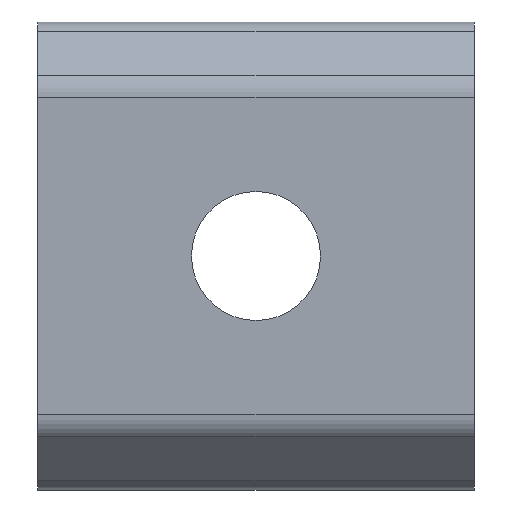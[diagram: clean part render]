
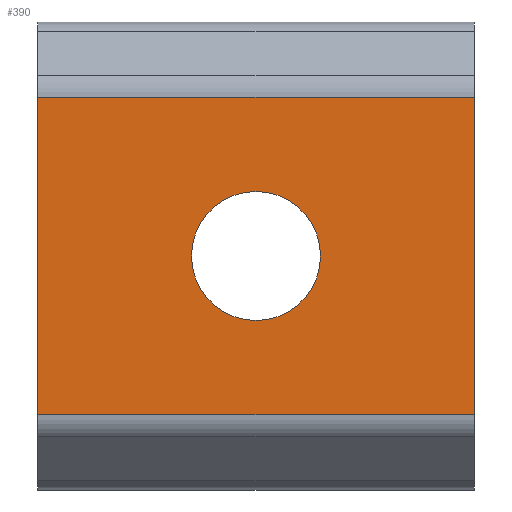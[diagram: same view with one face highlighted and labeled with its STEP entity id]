
A CAD part, front view. The second image highlights one B-rep face of the part: STEP entity #390.
In plain terms, the highlighted planar face has unit normal (0, -1, 0).
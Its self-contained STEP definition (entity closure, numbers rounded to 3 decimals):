
#7 = CARTESIAN_POINT ( 'NONE',  ( 0., -6.3, 2.067 ) ) ;
#17 = CIRCLE ( 'NONE', #464, 2.067 ) ;
#24 = LINE ( 'NONE', #102, #142 ) ;
#30 = AXIS2_PLACEMENT_3D ( 'NONE', #241, #396, #88 ) ;
#39 = EDGE_LOOP ( 'NONE', ( #629, #297, #163, #272 ) ) ;
#46 = FACE_OUTER_BOUND ( 'NONE', #39, .T. ) ;
#55 = CARTESIAN_POINT ( 'NONE',  ( 7., -6.3, 5.086 ) ) ;
#62 = LINE ( 'NONE', #55, #455 ) ;
#88 = DIRECTION ( 'NONE',  ( 0., 0., 1. ) ) ;
#93 = CARTESIAN_POINT ( 'NONE',  ( -7., -6.3, -5.086 ) ) ;
#102 = CARTESIAN_POINT ( 'NONE',  ( 7., -6.3, -5.5 ) ) ;
#117 = ORIENTED_EDGE ( 'NONE', *, *, #357, .T. ) ;
#137 = LINE ( 'NONE', #250, #543 ) ;
#138 = LINE ( 'NONE', #294, #585 ) ;
#142 = VECTOR ( 'NONE', #205, 1000. ) ;
#163 = ORIENTED_EDGE ( 'NONE', *, *, #478, .T. ) ;
#201 = VERTEX_POINT ( 'NONE', #443 ) ;
#204 = DIRECTION ( 'NONE',  ( 0., 0., -1. ) ) ;
#205 = DIRECTION ( 'NONE',  ( 0., 0., -1. ) ) ;
#215 = FACE_BOUND ( 'NONE', #248, .T. ) ;
#241 = CARTESIAN_POINT ( 'NONE',  ( 7., -6.3, -5.5 ) ) ;
#248 = EDGE_LOOP ( 'NONE', ( #117 ) ) ;
#250 = CARTESIAN_POINT ( 'NONE',  ( -7., -6.3, -5.5 ) ) ;
#272 = ORIENTED_EDGE ( 'NONE', *, *, #307, .T. ) ;
#294 = CARTESIAN_POINT ( 'NONE',  ( 7., -6.3, -5.086 ) ) ;
#297 = ORIENTED_EDGE ( 'NONE', *, *, #548, .T. ) ;
#307 = EDGE_CURVE ( 'NONE', #438, #428, #138, .T. ) ;
#308 = DIRECTION ( 'NONE',  ( -1., 0., 0. ) ) ;
#343 = CARTESIAN_POINT ( 'NONE',  ( 7., -6.3, -5.086 ) ) ;
#347 = DIRECTION ( 'NONE',  ( 0., 1., 0. ) ) ;
#354 = CARTESIAN_POINT ( 'NONE',  ( 0., -6.3, 0. ) ) ;
#357 = EDGE_CURVE ( 'NONE', #530, #530, #17, .T. ) ;
#390 = ADVANCED_FACE ( 'NONE', ( #215, #46 ), #463, .F. ) ;
#396 = DIRECTION ( 'NONE',  ( 0., 1., 0. ) ) ;
#428 = VERTEX_POINT ( 'NONE', #343 ) ;
#438 = VERTEX_POINT ( 'NONE', #93 ) ;
#443 = CARTESIAN_POINT ( 'NONE',  ( 7., -6.3, 5.086 ) ) ;
#455 = VECTOR ( 'NONE', #308, 1000. ) ;
#463 = PLANE ( 'NONE',  #30 ) ;
#464 = AXIS2_PLACEMENT_3D ( 'NONE', #354, #347, #517 ) ;
#472 = EDGE_CURVE ( 'NONE', #201, #428, #24, .T. ) ;
#478 = EDGE_CURVE ( 'NONE', #552, #438, #137, .T. ) ;
#512 = DIRECTION ( 'NONE',  ( 1., 0., 0. ) ) ;
#517 = DIRECTION ( 'NONE',  ( 0., 0., 1. ) ) ;
#530 = VERTEX_POINT ( 'NONE', #7 ) ;
#543 = VECTOR ( 'NONE', #204, 1000. ) ;
#548 = EDGE_CURVE ( 'NONE', #201, #552, #62, .T. ) ;
#552 = VERTEX_POINT ( 'NONE', #572 ) ;
#572 = CARTESIAN_POINT ( 'NONE',  ( -7., -6.3, 5.086 ) ) ;
#585 = VECTOR ( 'NONE', #512, 1000. ) ;
#629 = ORIENTED_EDGE ( 'NONE', *, *, #472, .F. ) ;
